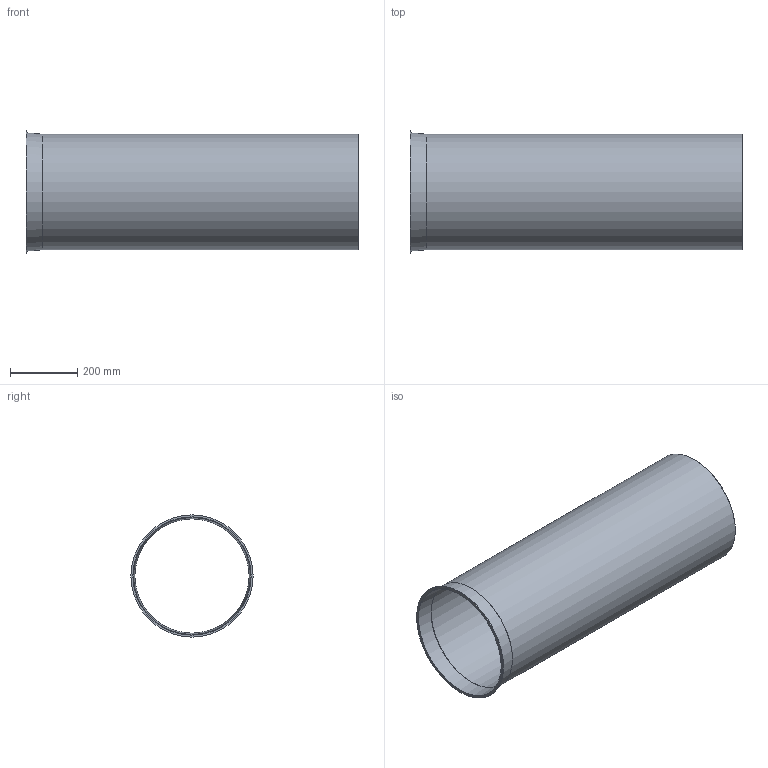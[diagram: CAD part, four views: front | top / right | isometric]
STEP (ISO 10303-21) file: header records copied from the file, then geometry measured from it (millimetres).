
FILE_DESCRIPTION((''),'2;1');
FILE_NAME('U:\Wolfgang\Marcel-3D\fertig\Kapitel 1\3511006.stp','2010-05-31T11:42:12',('TK2'),(''),'Autodesk Inventor 2010','Autodesk Inventor 2010','');
FILE_SCHEMA(('AUTOMOTIVE_DESIGN { 1 0 10303 214 1 1 1 1 }'));
Length unit declared in the file: millimetre
Products named in the file (1): 3511006
Bounding box: 991 x 365 x 365 mm (x, y, z)
Volume: 2150770 mm3; surface area: 2155206.9 mm2
Topology: 1 solids, 1 shells, 8 faces, 14 edges, 9 vertices
Faces by surface type: cylinder 3, plane 3, cone 2
Full cylindrical faces by diameter (mm): 341 x1, 345 x1, 365 x1
Entity records: 194 total; most frequent: DIRECTION 34, CARTESIAN_POINT 25, AXIS2_PLACEMENT_3D 17, ORIENTED_EDGE 16, EDGE_LOOP 16, VERTEX_POINT 8, CIRCLE 8, EDGE_CURVE 8
